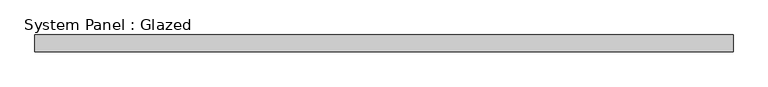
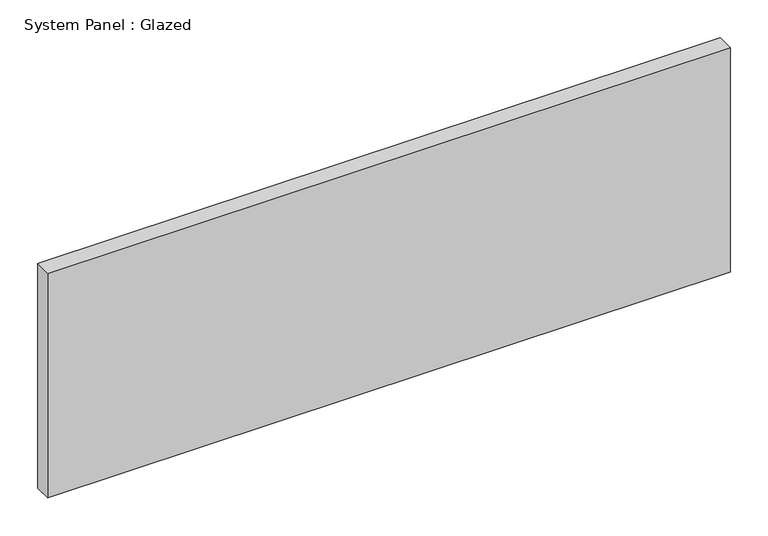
"""IFC4 building model written with IfcOpenShell, lengths in millimetres: plate geometry, System Panel : Glazed."""

from ifc_helpers import new_model, si_unit, origin, origin_with_axes, place, context, project, spatial, polyline, outline, extrude, source, transform, mapped, element, save


def system_panel_glazed_298910d5(model_context):
    return source(origin(), model_context, "Body", "SweptSolid", [
        extrude(outline(polyline([(519.2083334, 19.05), (-519.2083334, 19.05), (-519.2083334, 44.45), (519.2083334, 44.45), (519.2083334, 19.05)])), origin_with_axes(), (0.0, 0.0, 1.0), 361.6),
    ])


if __name__ == "__main__":
    model = new_model("IFC4")
    model_context = context("Model", 3, world=origin())
    ifc_project = project(units=[si_unit("LENGTHUNIT", "METRE", prefix="MILLI")], contexts=[model_context])
    site = spatial("IfcSite", under=ifc_project)
    building = spatial("IfcBuilding", under=site)
    placement = place(None, origin())
    system_panel_glazed_shape = system_panel_glazed_298910d5(model_context)
    element("IfcPlate", 1, ObjectType="System Panel : Glazed", at=placement, inside=building, context=model_context, shape_type="MappedRepresentation", body=[
        mapped(system_panel_glazed_shape, transform((0.0, 0.0, 0.0), x_axis=(1.0, 0.0, 0.0), y_axis=(0.0, 1.0, 0.0), z_axis=(0.0, 0.0, 1.0))),
    ])
    save(model, "model.ifc")
